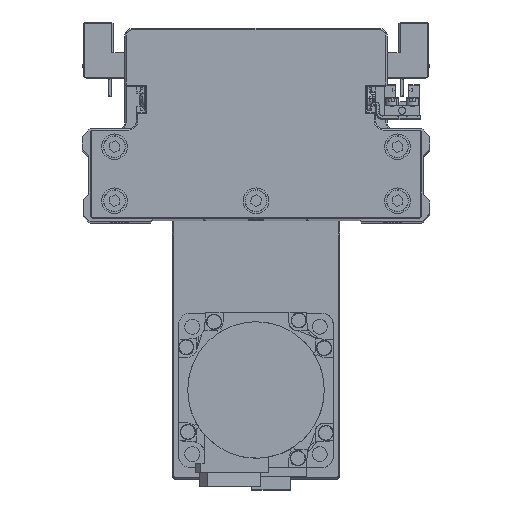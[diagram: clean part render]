
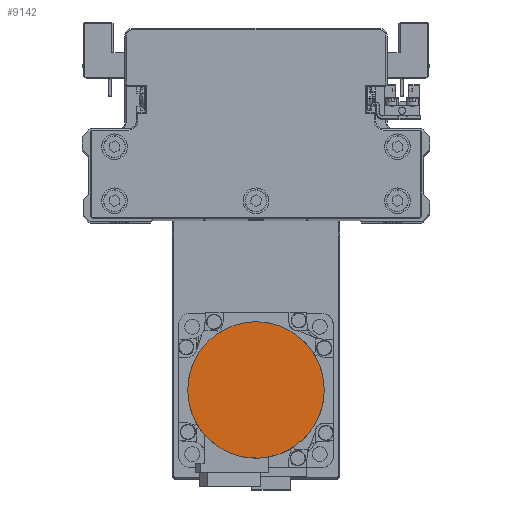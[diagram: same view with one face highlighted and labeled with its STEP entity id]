
A CAD part, top view. The second image highlights one B-rep face of the part: STEP entity #9142.
In plain terms, the highlighted planar face has unit normal (0, 0, 1) as drawn and (0, 0, -1) by its records, which use the part's own axes.
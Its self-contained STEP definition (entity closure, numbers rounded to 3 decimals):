
#830 = CARTESIAN_POINT ( 'NONE',  ( -1.734, 26.5, -109.7 ) ) ;
#1017 = CARTESIAN_POINT ( 'NONE',  ( -25.652, 6.871, -109.7 ) ) ;
#2193 = CARTESIAN_POINT ( 'NONE',  ( -25.147, -8.539, -109.7 ) ) ;
#2279 = DIRECTION ( 'NONE',  ( 1., 0., 0. ) ) ;
#2375 = CARTESIAN_POINT ( 'NONE',  ( 1.734, -26.5, -109.7 ) ) ;
#2481 = CARTESIAN_POINT ( 'NONE',  ( 26.5, 0., -109.7 ) ) ;
#2593 = CARTESIAN_POINT ( 'NONE',  ( 25.652, -6.871, -109.7 ) ) ;
#3869 = CARTESIAN_POINT ( 'NONE',  ( 6.871, 25.652, -109.7 ) ) ;
#3928 = CARTESIAN_POINT ( 'NONE',  ( -26.5, 0., -109.7 ) ) ;
#4067 = CARTESIAN_POINT ( 'NONE',  ( -22.998, 13.28, -109.7 ) ) ;
#4262 = CARTESIAN_POINT ( 'NONE',  ( 25.652, 6.871, -109.7 ) ) ;
#5233 = CARTESIAN_POINT ( 'NONE',  ( -26.5, -1.734, -109.7 ) ) ;
#5322 = PLANE ( 'NONE',  #21973 ) ;
#5423 = CARTESIAN_POINT ( 'NONE',  ( -6.871, -25.652, -109.7 ) ) ;
#5603 = CARTESIAN_POINT ( 'NONE',  ( 22.998, -13.28, -109.7 ) ) ;
#6880 = CARTESIAN_POINT ( 'NONE',  ( 13.28, 22.998, -109.7 ) ) ;
#7099 = CARTESIAN_POINT ( 'NONE',  ( -17.512, 19.965, -109.7 ) ) ;
#7313 = CARTESIAN_POINT ( 'NONE',  ( 26.5, 0., -109.7 ) ) ;
#7629 = VERTEX_POINT ( 'NONE', #3928 ) ;
#8461 = CARTESIAN_POINT ( 'NONE',  ( -13.28, -22.998, -109.7 ) ) ;
#8649 = CARTESIAN_POINT ( 'NONE',  ( 17.512, -19.965, -109.7 ) ) ;
#9142 = ADVANCED_FACE ( 'NONE', ( #33056 ), #5322, .F. ) ;
#9932 = CARTESIAN_POINT ( 'NONE',  ( 19.965, 17.512, -109.7 ) ) ;
#10119 = CARTESIAN_POINT ( 'NONE',  ( -11.744, 23.819, -109.7 ) ) ;
#10958 = EDGE_CURVE ( 'NONE', #7629, #35029, #29910, .T. ) ;
#11476 = CARTESIAN_POINT ( 'NONE',  ( -19.965, -17.512, -109.7 ) ) ;
#11616 = EDGE_LOOP ( 'NONE', ( #22583, #11970 ) ) ;
#11687 = CARTESIAN_POINT ( 'NONE',  ( 11.744, -23.819, -109.7 ) ) ;
#11970 = ORIENTED_EDGE ( 'NONE', *, *, #10958, .F. ) ;
#12974 = CARTESIAN_POINT ( 'NONE',  ( 23.819, 11.744, -109.7 ) ) ;
#13171 = CARTESIAN_POINT ( 'NONE',  ( -3.469, 26.329, -109.7 ) ) ;
#13352 = CARTESIAN_POINT ( 'NONE',  ( -26.329, 3.469, -109.7 ) ) ;
#14520 = CARTESIAN_POINT ( 'NONE',  ( -23.819, -11.744, -109.7 ) ) ;
#14713 = CARTESIAN_POINT ( 'NONE',  ( 3.469, -26.329, -109.7 ) ) ;
#14933 = CARTESIAN_POINT ( 'NONE',  ( 26.329, -3.469, -109.7 ) ) ;
#16225 = CARTESIAN_POINT ( 'NONE',  ( 3.469, 26.329, -109.7 ) ) ;
#16414 = CARTESIAN_POINT ( 'NONE',  ( -23.819, 11.744, -109.7 ) ) ;
#16619 = CARTESIAN_POINT ( 'NONE',  ( 25.147, 8.539, -109.7 ) ) ;
#17583 = CARTESIAN_POINT ( 'NONE',  ( -26.329, -3.469, -109.7 ) ) ;
#17665 = CARTESIAN_POINT ( 'NONE',  ( 0., 0., -109.7 ) ) ;
#17758 = CARTESIAN_POINT ( 'NONE',  ( -3.469, -26.329, -109.7 ) ) ;
#17953 = CARTESIAN_POINT ( 'NONE',  ( 23.819, -11.744, -109.7 ) ) ;
#19239 = CARTESIAN_POINT ( 'NONE',  ( 11.744, 23.819, -109.7 ) ) ;
#19460 = CARTESIAN_POINT ( 'NONE',  ( -19.965, 17.512, -109.7 ) ) ;
#19669 = CARTESIAN_POINT ( 'NONE',  ( 26.5, 1.734, -109.7 ) ) ;
#20821 = CARTESIAN_POINT ( 'NONE',  ( -11.744, -23.819, -109.7 ) ) ;
#21004 = CARTESIAN_POINT ( 'NONE',  ( 19.965, -17.512, -109.7 ) ) ;
#21973 = AXIS2_PLACEMENT_3D ( 'NONE', #17665, #30026, #2279 ) ;
#22293 = CARTESIAN_POINT ( 'NONE',  ( 17.512, 19.965, -109.7 ) ) ;
#22488 = CARTESIAN_POINT ( 'NONE',  ( -13.28, 22.998, -109.7 ) ) ;
#22583 = ORIENTED_EDGE ( 'NONE', *, *, #29082, .F. ) ;
#23578 = B_SPLINE_CURVE_WITH_KNOTS ( 'NONE', 3,
 ( #7313, #19669, #31996, #4262, #16619, #12974, #25355, #37683, #9932, #22293, #34617, #6880, #19239, #31592, #3869, #16225, #28587, #830, #13171, #25544, #37861, #10119, #22488, #34834, #7099, #19460, #31796, #4067, #16414, #28774, #1017, #13352, #25740, #38066 ),
 .UNSPECIFIED., .F., .F.,
 ( 4, 2, 2, 2, 2, 2, 2, 2, 2, 2, 2, 2, 2, 2, 2, 2, 4 ),
 ( 0., 0.062, 0.125, 0.187, 0.25, 0.312, 0.375, 0.437, 0.5, 0.562, 0.625, 0.687, 0.75, 0.813, 0.875, 0.938, 1. ),
 .UNSPECIFIED. ) ;
#23866 = CARTESIAN_POINT ( 'NONE',  ( -17.512, -19.965, -109.7 ) ) ;
#24071 = CARTESIAN_POINT ( 'NONE',  ( 13.28, -22.998, -109.7 ) ) ;
#25355 = CARTESIAN_POINT ( 'NONE',  ( 22.998, 13.28, -109.7 ) ) ;
#25544 = CARTESIAN_POINT ( 'NONE',  ( -6.871, 25.652, -109.7 ) ) ;
#25740 = CARTESIAN_POINT ( 'NONE',  ( -26.5, 1.734, -109.7 ) ) ;
#26888 = CARTESIAN_POINT ( 'NONE',  ( -22.998, -13.28, -109.7 ) ) ;
#27101 = CARTESIAN_POINT ( 'NONE',  ( 6.871, -25.652, -109.7 ) ) ;
#27302 = CARTESIAN_POINT ( 'NONE',  ( 26.5, -1.734, -109.7 ) ) ;
#28587 = CARTESIAN_POINT ( 'NONE',  ( 1.734, 26.5, -109.7 ) ) ;
#28774 = CARTESIAN_POINT ( 'NONE',  ( -25.147, 8.539, -109.7 ) ) ;
#29082 = EDGE_CURVE ( 'NONE', #35029, #7629, #23578, .T. ) ;
#29910 = B_SPLINE_CURVE_WITH_KNOTS ( 'NONE', 3,
 ( #32960, #5233, #17583, #29940, #2193, #14520, #26888, #39211, #11476, #23866, #36189, #8461, #20821, #33154, #5423, #17758, #30113, #2375, #14713, #27101, #39424, #11687, #24071, #36392, #8649, #21004, #33327, #5603, #17953, #30323, #2593, #14933, #27302, #39621 ),
 .UNSPECIFIED., .F., .F.,
 ( 4, 2, 2, 2, 2, 2, 2, 2, 2, 2, 2, 2, 2, 2, 2, 2, 4 ),
 ( 0., 0.063, 0.125, 0.188, 0.25, 0.312, 0.375, 0.437, 0.5, 0.562, 0.625, 0.687, 0.75, 0.813, 0.875, 0.938, 1. ),
 .UNSPECIFIED. ) ;
#29940 = CARTESIAN_POINT ( 'NONE',  ( -25.652, -6.871, -109.7 ) ) ;
#30026 = DIRECTION ( 'NONE',  ( 0., 0., 1. ) ) ;
#30113 = CARTESIAN_POINT ( 'NONE',  ( -1.734, -26.5, -109.7 ) ) ;
#30323 = CARTESIAN_POINT ( 'NONE',  ( 25.147, -8.539, -109.7 ) ) ;
#31592 = CARTESIAN_POINT ( 'NONE',  ( 8.539, 25.147, -109.7 ) ) ;
#31796 = CARTESIAN_POINT ( 'NONE',  ( -21.07, 16.165, -109.7 ) ) ;
#31996 = CARTESIAN_POINT ( 'NONE',  ( 26.329, 3.469, -109.7 ) ) ;
#32960 = CARTESIAN_POINT ( 'NONE',  ( -26.5, 0., -109.7 ) ) ;
#33056 = FACE_OUTER_BOUND ( 'NONE', #11616, .T. ) ;
#33154 = CARTESIAN_POINT ( 'NONE',  ( -8.539, -25.147, -109.7 ) ) ;
#33327 = CARTESIAN_POINT ( 'NONE',  ( 21.07, -16.165, -109.7 ) ) ;
#34617 = CARTESIAN_POINT ( 'NONE',  ( 16.165, 21.07, -109.7 ) ) ;
#34834 = CARTESIAN_POINT ( 'NONE',  ( -16.165, 21.07, -109.7 ) ) ;
#35029 = VERTEX_POINT ( 'NONE', #2481 ) ;
#36189 = CARTESIAN_POINT ( 'NONE',  ( -16.165, -21.07, -109.7 ) ) ;
#36392 = CARTESIAN_POINT ( 'NONE',  ( 16.165, -21.07, -109.7 ) ) ;
#37683 = CARTESIAN_POINT ( 'NONE',  ( 21.07, 16.165, -109.7 ) ) ;
#37861 = CARTESIAN_POINT ( 'NONE',  ( -8.539, 25.147, -109.7 ) ) ;
#38066 = CARTESIAN_POINT ( 'NONE',  ( -26.5, 0., -109.7 ) ) ;
#39211 = CARTESIAN_POINT ( 'NONE',  ( -21.07, -16.165, -109.7 ) ) ;
#39424 = CARTESIAN_POINT ( 'NONE',  ( 8.539, -25.147, -109.7 ) ) ;
#39621 = CARTESIAN_POINT ( 'NONE',  ( 26.5, 0., -109.7 ) ) ;
